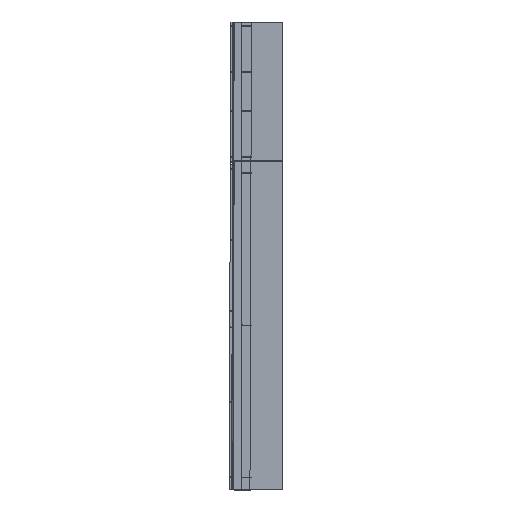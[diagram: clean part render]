
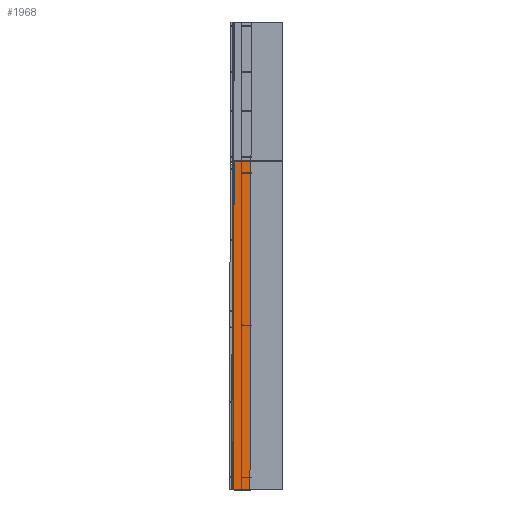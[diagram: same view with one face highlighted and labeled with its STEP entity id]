
A CAD part, top view. The second image highlights one B-rep face of the part: STEP entity #1968.
In plain terms, the highlighted planar face has unit normal (0, 0, 1).
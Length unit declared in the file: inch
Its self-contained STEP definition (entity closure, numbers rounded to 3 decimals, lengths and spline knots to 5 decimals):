
#7 = EDGE_LOOP ( 'NONE', ( #3853, #5924 ) ) ;
#39 = EDGE_CURVE ( 'NONE', #5727, #4636, #1031, .T. ) ;
#67 = CARTESIAN_POINT ( 'NONE',  ( 2.12948, 41.92575, 0.038 ) ) ;
#131 = VERTEX_POINT ( 'NONE', #2233 ) ;
#369 = EDGE_CURVE ( 'NONE', #131, #3747, #1952, .T. ) ;
#534 = DIRECTION ( 'NONE',  ( 1., 0., 0. ) ) ;
#540 = AXIS2_PLACEMENT_3D ( 'NONE', #2142, #2133, #2123 ) ;
#549 = DIRECTION ( 'NONE',  ( 0., 0., -1. ) ) ;
#552 = CARTESIAN_POINT ( 'NONE',  ( 2.22323, 41.92575, 0.038 ) ) ;
#561 = AXIS2_PLACEMENT_3D ( 'NONE', #2331, #2323, #2310 ) ;
#633 = AXIS2_PLACEMENT_3D ( 'NONE', #3041, #3028, #3018 ) ;
#644 = ORIENTED_EDGE ( 'NONE', *, *, #4295, .F. ) ;
#664 = CIRCLE ( 'NONE', #540, 0.09375 ) ;
#771 = CARTESIAN_POINT ( 'NONE',  ( 0.19646, 0., 0.038 ) ) ;
#1031 = LINE ( 'NONE', #1988, #1087 ) ;
#1087 = VECTOR ( 'NONE', #2128, 39.37008 ) ;
#1210 = AXIS2_PLACEMENT_3D ( 'NONE', #552, #549, #534 ) ;
#1376 = ORIENTED_EDGE ( 'NONE', *, *, #5309, .T. ) ;
#1521 = FACE_BOUND ( 'NONE', #3402, .T. ) ;
#1641 = ORIENTED_EDGE ( 'NONE', *, *, #5107, .T. ) ;
#1658 = EDGE_LOOP ( 'NONE', ( #2159, #1641 ) ) ;
#1756 = EDGE_CURVE ( 'NONE', #6216, #6235, #5571, .T. ) ;
#1808 = CIRCLE ( 'NONE', #633, 0.09375 ) ;
#1912 = AXIS2_PLACEMENT_3D ( 'NONE', #6297, #6306, #6322 ) ;
#1952 = CIRCLE ( 'NONE', #2747, 0.09375 ) ;
#1968 = ADVANCED_FACE ( 'NONE', ( #6796, #6671, #6563, #1521 ), #6245, .F. ) ;
#1975 = CARTESIAN_POINT ( 'NONE',  ( 2.12948, 3., 0.038 ) ) ;
#1988 = CARTESIAN_POINT ( 'NONE',  ( 0.07146, 0., 0.038 ) ) ;
#2033 = CARTESIAN_POINT ( 'NONE',  ( 4.375, 0., 0.038 ) ) ;
#2123 = DIRECTION ( 'NONE',  ( 1., 0., 0. ) ) ;
#2128 = DIRECTION ( 'NONE',  ( -1., 0., 0. ) ) ;
#2133 = DIRECTION ( 'NONE',  ( 0., 0., -1. ) ) ;
#2142 = CARTESIAN_POINT ( 'NONE',  ( 2.22323, 3., 0.038 ) ) ;
#2159 = ORIENTED_EDGE ( 'NONE', *, *, #1756, .T. ) ;
#2164 = LINE ( 'NONE', #6631, #2757 ) ;
#2233 = CARTESIAN_POINT ( 'NONE',  ( 2.31698, 3., 0.038 ) ) ;
#2235 = CARTESIAN_POINT ( 'NONE',  ( 2.31698, 41.92575, 0.038 ) ) ;
#2239 = CARTESIAN_POINT ( 'NONE',  ( 4.375, 0., 0.038 ) ) ;
#2305 = DIRECTION ( 'NONE',  ( 0., 1., 0. ) ) ;
#2310 = DIRECTION ( 'NONE',  ( 1., 0., 0. ) ) ;
#2323 = DIRECTION ( 'NONE',  ( 0., 0., -1. ) ) ;
#2331 = CARTESIAN_POINT ( 'NONE',  ( 2.22323, 41.92575, 0.038 ) ) ;
#2336 = CARTESIAN_POINT ( 'NONE',  ( 2.31698, 80.8515, 0.038 ) ) ;
#2418 = VERTEX_POINT ( 'NONE', #67 ) ;
#2521 = EDGE_CURVE ( 'NONE', #3374, #3840, #3667, .T. ) ;
#2546 = CIRCLE ( 'NONE', #1210, 0.09375 ) ;
#2654 = CARTESIAN_POINT ( 'NONE',  ( 0.19646, 83.8515, 0.038 ) ) ;
#2720 = ORIENTED_EDGE ( 'NONE', *, *, #3711, .T. ) ;
#2745 = ORIENTED_EDGE ( 'NONE', *, *, #2521, .T. ) ;
#2747 = AXIS2_PLACEMENT_3D ( 'NONE', #5111, #5113, #5119 ) ;
#2757 = VECTOR ( 'NONE', #6585, 39.37008 ) ;
#2914 = CARTESIAN_POINT ( 'NONE',  ( 0.07146, 83.8515, 0.038 ) ) ;
#3018 = DIRECTION ( 'NONE',  ( 1., 0., 0. ) ) ;
#3028 = DIRECTION ( 'NONE',  ( 0., 0., -1. ) ) ;
#3041 = CARTESIAN_POINT ( 'NONE',  ( 2.22323, 80.8515, 0.038 ) ) ;
#3067 = VERTEX_POINT ( 'NONE', #2914 ) ;
#3187 = AXIS2_PLACEMENT_3D ( 'NONE', #5472, #5483, #5503 ) ;
#3310 = ORIENTED_EDGE ( 'NONE', *, *, #4797, .F. ) ;
#3341 = VECTOR ( 'NONE', #4519, 39.37008 ) ;
#3374 = VERTEX_POINT ( 'NONE', #2033 ) ;
#3394 = VECTOR ( 'NONE', #5350, 39.37008 ) ;
#3402 = EDGE_LOOP ( 'NONE', ( #2720, #1376 ) ) ;
#3487 = VECTOR ( 'NONE', #2305, 39.37008 ) ;
#3667 = LINE ( 'NONE', #2239, #3487 ) ;
#3711 = EDGE_CURVE ( 'NONE', #5352, #2418, #2546, .T. ) ;
#3747 = VERTEX_POINT ( 'NONE', #1975 ) ;
#3840 = VERTEX_POINT ( 'NONE', #4348 ) ;
#3843 = VECTOR ( 'NONE', #3866, 39.37008 ) ;
#3853 = ORIENTED_EDGE ( 'NONE', *, *, #369, .T. ) ;
#3866 = DIRECTION ( 'NONE',  ( -1., 0., 0. ) ) ;
#3882 = CARTESIAN_POINT ( 'NONE',  ( 0.07146, 83.8515, 0.038 ) ) ;
#4200 = ORIENTED_EDGE ( 'NONE', *, *, #4932, .T. ) ;
#4295 = EDGE_CURVE ( 'NONE', #5206, #3840, #2164, .T. ) ;
#4348 = CARTESIAN_POINT ( 'NONE',  ( 4.375, 83.8515, 0.038 ) ) ;
#4519 = DIRECTION ( 'NONE',  ( -1., 0., 0. ) ) ;
#4542 = CARTESIAN_POINT ( 'NONE',  ( 0., 0., 0.038 ) ) ;
#4560 = EDGE_CURVE ( 'NONE', #4636, #3067, #6511, .T. ) ;
#4587 = CIRCLE ( 'NONE', #561, 0.09375 ) ;
#4636 = VERTEX_POINT ( 'NONE', #5092 ) ;
#4797 = EDGE_CURVE ( 'NONE', #3374, #5727, #5852, .T. ) ;
#4932 = EDGE_CURVE ( 'NONE', #5206, #3067, #6004, .T. ) ;
#4963 = CARTESIAN_POINT ( 'NONE',  ( 2.12948, 80.8515, 0.038 ) ) ;
#5092 = CARTESIAN_POINT ( 'NONE',  ( 0.07146, 0., 0.038 ) ) ;
#5107 = EDGE_CURVE ( 'NONE', #6235, #6216, #1808, .T. ) ;
#5111 = CARTESIAN_POINT ( 'NONE',  ( 2.22323, 3., 0.038 ) ) ;
#5113 = DIRECTION ( 'NONE',  ( 0., 0., -1. ) ) ;
#5119 = DIRECTION ( 'NONE',  ( 1., 0., 0. ) ) ;
#5206 = VERTEX_POINT ( 'NONE', #2654 ) ;
#5309 = EDGE_CURVE ( 'NONE', #2418, #5352, #4587, .T. ) ;
#5344 = EDGE_CURVE ( 'NONE', #3747, #131, #664, .T. ) ;
#5350 = DIRECTION ( 'NONE',  ( 0., 1., 0. ) ) ;
#5351 = CARTESIAN_POINT ( 'NONE',  ( 0.07146, 83.8515, 0.038 ) ) ;
#5352 = VERTEX_POINT ( 'NONE', #2235 ) ;
#5472 = CARTESIAN_POINT ( 'NONE',  ( 2.22323, 80.8515, 0.038 ) ) ;
#5483 = DIRECTION ( 'NONE',  ( 0., 0., -1. ) ) ;
#5503 = DIRECTION ( 'NONE',  ( 1., 0., 0. ) ) ;
#5571 = CIRCLE ( 'NONE', #3187, 0.09375 ) ;
#5727 = VERTEX_POINT ( 'NONE', #771 ) ;
#5852 = LINE ( 'NONE', #4542, #3341 ) ;
#5924 = ORIENTED_EDGE ( 'NONE', *, *, #5344, .T. ) ;
#6004 = LINE ( 'NONE', #3882, #3843 ) ;
#6016 = EDGE_LOOP ( 'NONE', ( #6421, #3310, #2745, #644, #4200, #6179 ) ) ;
#6179 = ORIENTED_EDGE ( 'NONE', *, *, #4560, .F. ) ;
#6216 = VERTEX_POINT ( 'NONE', #2336 ) ;
#6235 = VERTEX_POINT ( 'NONE', #4963 ) ;
#6245 = PLANE ( 'NONE',  #1912 ) ;
#6297 = CARTESIAN_POINT ( 'NONE',  ( 0., 83.8515, 0.038 ) ) ;
#6306 = DIRECTION ( 'NONE',  ( 0., 0., -1. ) ) ;
#6322 = DIRECTION ( 'NONE',  ( -1., 0., 0. ) ) ;
#6421 = ORIENTED_EDGE ( 'NONE', *, *, #39, .F. ) ;
#6511 = LINE ( 'NONE', #5351, #3394 ) ;
#6563 = FACE_BOUND ( 'NONE', #7, .T. ) ;
#6585 = DIRECTION ( 'NONE',  ( 1., 0., 0. ) ) ;
#6631 = CARTESIAN_POINT ( 'NONE',  ( 0., 83.8515, 0.038 ) ) ;
#6671 = FACE_BOUND ( 'NONE', #1658, .T. ) ;
#6796 = FACE_OUTER_BOUND ( 'NONE', #6016, .T. ) ;
